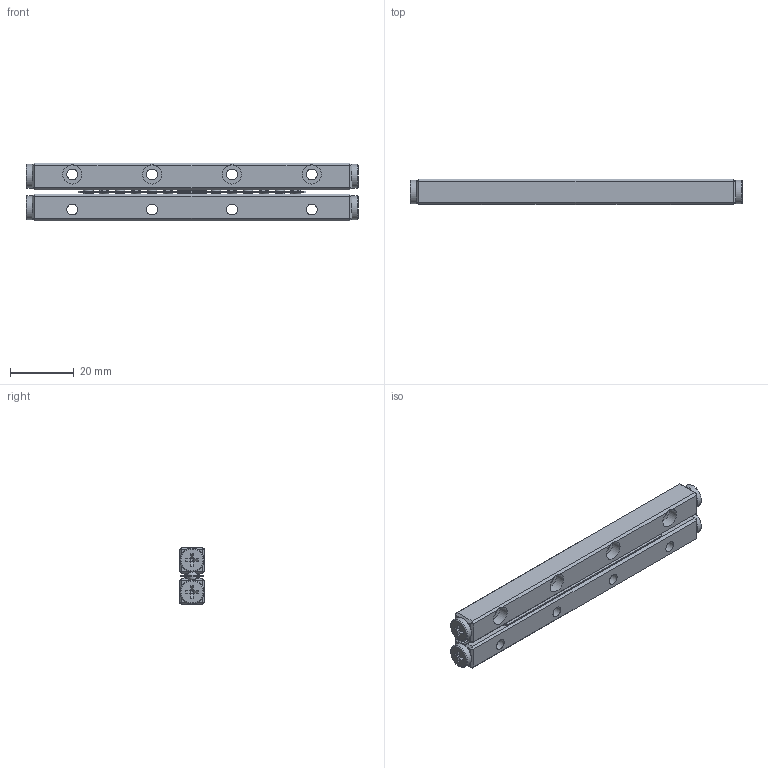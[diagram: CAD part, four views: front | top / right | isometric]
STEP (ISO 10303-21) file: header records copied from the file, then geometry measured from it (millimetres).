
FILE_DESCRIPTION (( 'STEP AP203' ), '1' );
FILE_NAME ('GRG03-0100-模糊化軌道組.STEP', '2022-09-28T06:11:14', ( '' ), ( '' ), 'SwSTEP 2.0', 'SolidWorks 2019', '' );
FILE_SCHEMA (( 'CONFIG_CONTROL_DESIGN' ));
Length unit declared in the file: millimetre
Products named in the file (1): GRG03-0100-模糊化軌道組
Bounding box: 104 x 8 x 18 mm (x, y, z)
Volume: 12189.3 mm3; surface area: 9543.3 mm2
Topology: 3 solids, 31 shells, 610 faces, 1438 edges, 902 vertices
Faces by surface type: plane 408, cone 84, cylinder 78, torus 40
Full cylindrical faces by diameter (mm): 2 x4, 2.55 x28, 3.4 x8, 6 x8, 7.5 x4
Entity records: 16445 total; most frequent: CARTESIAN_POINT 3371, DIRECTION 2642, ORIENTED_EDGE 2480, EDGE_CURVE 1240, AXIS2_PLACEMENT_3D 919, VERTEX_POINT 824, EDGE_LOOP 806, LINE 804
